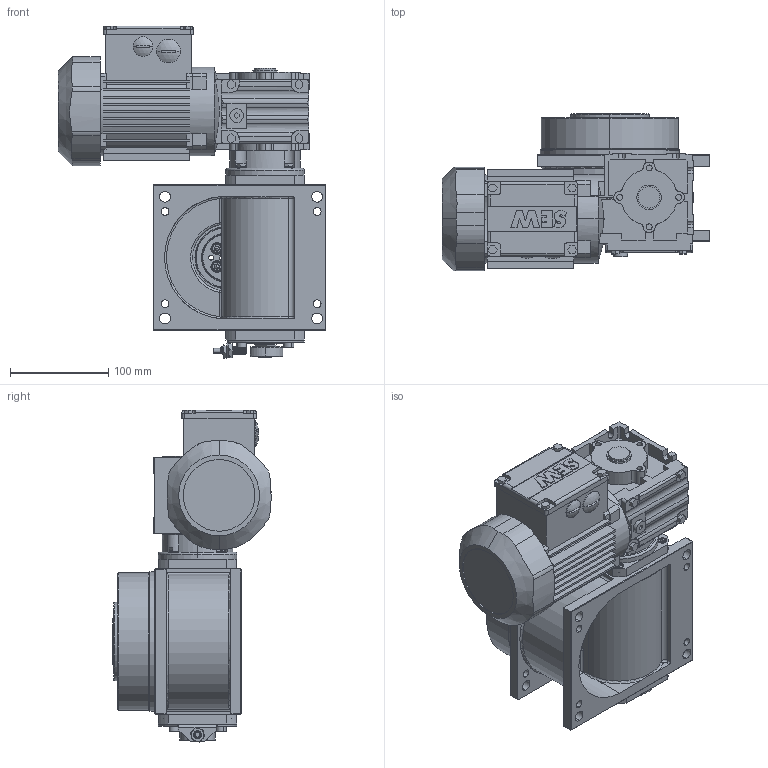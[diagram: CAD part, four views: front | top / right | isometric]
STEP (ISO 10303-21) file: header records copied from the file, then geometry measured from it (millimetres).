
FILE_DESCRIPTION (( 'STEP AP214' ), '1' );
FILE_NAME ('M140_SEW_WAF10DR2S56M4_E1.STEP', '2021-01-22T15:35:41', ( '' ), ( '' ), 'SwSTEP 2.0', 'SolidWorks 2020', '' );
FILE_SCHEMA (( 'AUTOMOTIVE_DESIGN' ));
Length unit declared in the file: millimetre
Products named in the file (1): M140_SEW_WAF10DR2S56M4_E1
Bounding box: 273 x 161.14 x 338.29 mm (x, y, z)
Surface area: 366719.3 mm2 (no closed solid volume)
Topology: 0 solids, 50 shells, 1328 faces, 4195 edges, 2788 vertices
Faces by surface type: plane 720, cylinder 405, cone 100, torus 50, bspline 49, sphere 4
Entity records: 67411 total; most frequent: CARTESIAN_POINT 16289, DIRECTION 7510, ORIENTED_EDGE 7280, EDGE_CURVE 4165, VERTEX_POINT 2788, AXIS2_PLACEMENT_3D 2509, LINE 2492, VECTOR 2492
